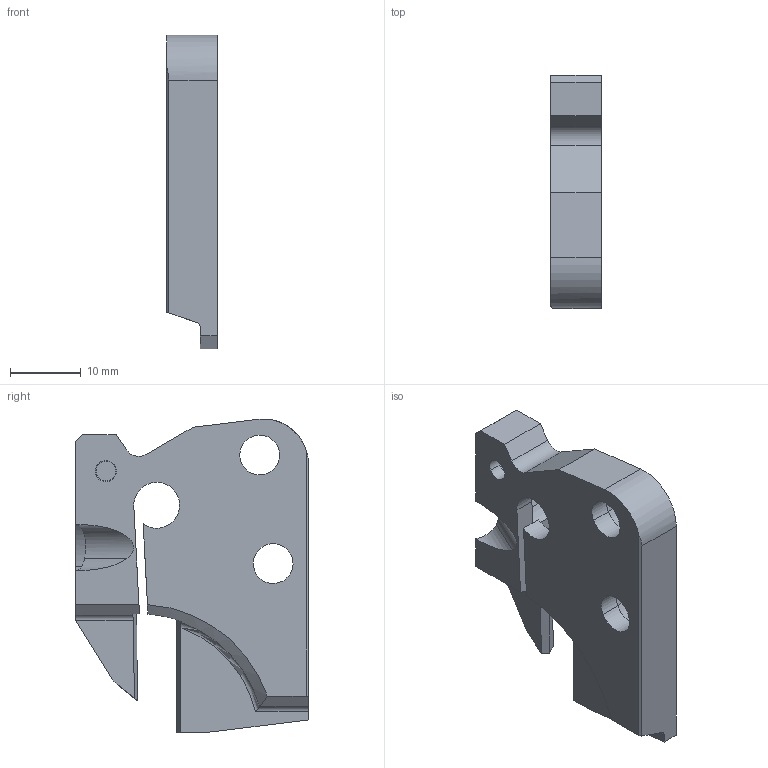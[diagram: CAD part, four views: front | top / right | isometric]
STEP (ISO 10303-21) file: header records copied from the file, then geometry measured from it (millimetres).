
FILE_DESCRIPTION(('CATIA V5 STEP','CAx-IF Rec.Pracs.--- Model Styling and Organization---1.2---2011-12-15'),'2;1');
FILE_NAME('N:\data\isr\design\special1\users\NATALY_B\Tal\NPA\2393783\DGPAD 3L-D32-JHP.stp','2016-04-18T12:12:26+00:00',('none'),('none'),'CATIA Version 5 Release 21 SP 5 (IN-10)','CATIA V5 STEP AP214','none');
FILE_SCHEMA(('AUTOMOTIVE_DESIGN { 1 0 10303 214 1 1 1 1 }'));
Length unit declared in the file: millimetre
Products named in the file (1): DGPAD 3L-D32-JHP
Bounding box: 7.2 x 33 x 44.49 mm (x, y, z)
Volume: 6329 mm3; surface area: 3856.9 mm2
Topology: 1 solids, 1 shells, 70 faces, 189 edges, 121 vertices
Faces by surface type: plane 31, cylinder 26, cone 8, torus 5
Entity records: 2159 total; most frequent: CARTESIAN_POINT 496, ORIENTED_EDGE 374, DIRECTION 272, EDGE_CURVE 187, VERTEX_POINT 121, AXIS2_PLACEMENT_3D 110, VECTOR 110, LINE 110
